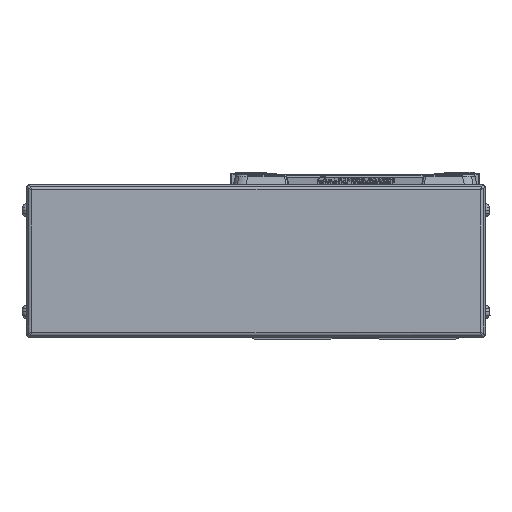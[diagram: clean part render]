
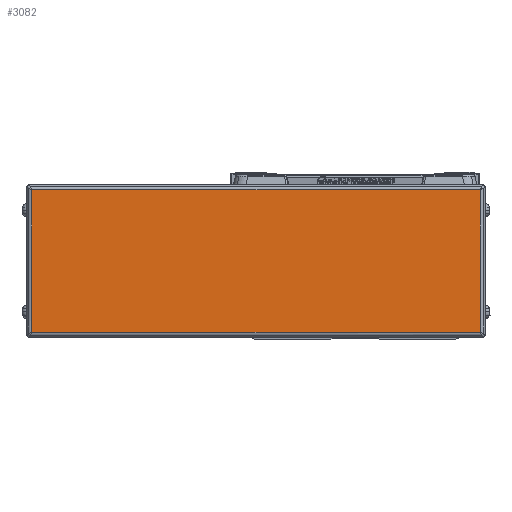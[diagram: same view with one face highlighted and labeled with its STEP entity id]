
A CAD part, left-side view. The second image highlights one B-rep face of the part: STEP entity #3082.
In plain terms, the highlighted planar face has unit normal (-1, 0, 0).
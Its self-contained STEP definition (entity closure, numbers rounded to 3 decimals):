
#3082=ADVANCED_FACE('',(#7350),#7351,.F.);
#7350=FACE_OUTER_BOUND('',#13180,.T.);
#7351=PLANE('',#13181);
#13180=EDGE_LOOP('',(#22307,#22308,#22309,#22310));
#13181=AXIS2_PLACEMENT_3D('',#22311,#22312,#22313);
#22307=ORIENTED_EDGE('',*,*,#36584,.T.);
#22308=ORIENTED_EDGE('',*,*,#36585,.T.);
#22309=ORIENTED_EDGE('',*,*,#36586,.T.);
#22310=ORIENTED_EDGE('',*,*,#36587,.T.);
#22311=CARTESIAN_POINT('',(-616.,39.,0.));
#22312=DIRECTION('',(1.0,0.,0.));
#22313=DIRECTION('',(0.,0.,1.0));
#36584=EDGE_CURVE('',#44841,#44842,#44843,.T.);
#36585=EDGE_CURVE('',#44842,#44844,#44845,.T.);
#36586=EDGE_CURVE('',#44844,#44846,#44847,.T.);
#36587=EDGE_CURVE('',#44846,#44841,#44848,.T.);
#44841=VERTEX_POINT('',#55782);
#44842=VERTEX_POINT('',#55783);
#44843=LINE('',#55784,#55785);
#44844=VERTEX_POINT('',#55786);
#44845=LINE('',#55787,#55788);
#44846=VERTEX_POINT('',#55789);
#44847=LINE('',#55790,#55791);
#44848=LINE('',#55792,#55793);
#55782=CARTESIAN_POINT('',(-616.,-49.2,28.));
#55783=CARTESIAN_POINT('',(-616.,127.2,28.));
#55784=CARTESIAN_POINT('',(-616.,39.,28.));
#55785=VECTOR('',#66001,10.0);
#55786=CARTESIAN_POINT('',(-616.0,127.2,-28.));
#55787=CARTESIAN_POINT('',(-616.0,127.2,0.));
#55788=VECTOR('',#66002,10.0);
#55789=CARTESIAN_POINT('',(-616.,-49.2,-28.));
#55790=CARTESIAN_POINT('',(-616.,39.,-28.));
#55791=VECTOR('',#66003,10.0);
#55792=CARTESIAN_POINT('',(-616.,-49.2,0.));
#55793=VECTOR('',#66004,10.0);
#66001=DIRECTION('',(0.,1.0,0.));
#66002=DIRECTION('',(0.,0.,-1.0));
#66003=DIRECTION('',(0.,-1.0,0.));
#66004=DIRECTION('',(0.,0.,1.0));
